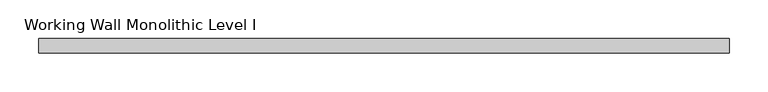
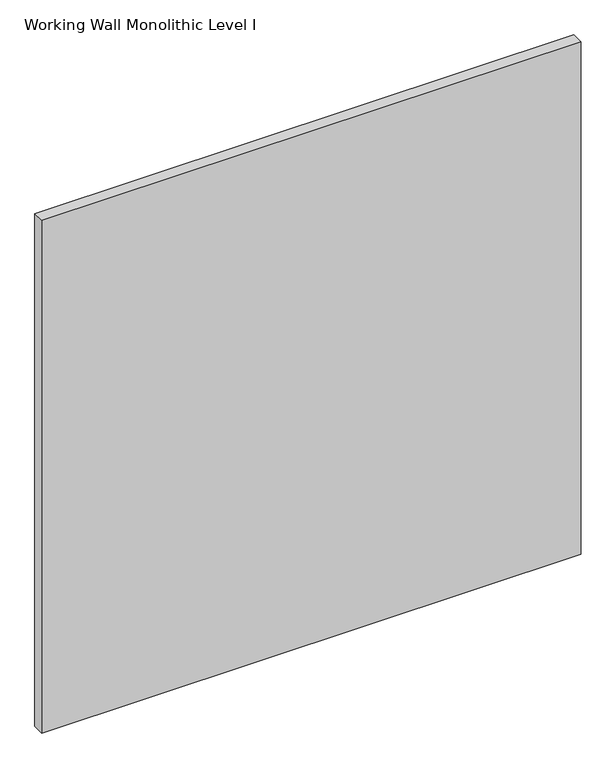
"""IFC4 building model written with IfcOpenShell, lengths in millimetres: proxy geometry, Panel-Fascia-Teknion-Altos-Standard : Working Wall Monolithic Level I."""

from ifc_helpers import new_model, si_unit, frame, origin, place, context, project, spatial, polyline, outline, extrude, source, transform, mapped, element, save


def working_wall_monolithic_level_i_759ace73(model_context):
    return source(origin(), model_context, "Body", "SweptSolid", [
        extrude(outline(polyline([(447.0300781, 9.525), (447.0300781, -9.525), (-447.0300781, -9.525), (-447.0300781, 9.525), (447.0300781, 9.525)])), frame((0.0, 0.0, 3.175), z_axis=(0.0, 0.0, 1.0), x_axis=(1.0, 0.0, 0.0)), (0.0, 0.0, 1.0), 898.525),
    ])


if __name__ == "__main__":
    model = new_model("IFC4")
    model_context = context("Model", 3, world=origin())
    ifc_project = project(units=[si_unit("LENGTHUNIT", "METRE", prefix="MILLI")], contexts=[model_context])
    site = spatial("IfcSite", under=ifc_project)
    building = spatial("IfcBuilding", under=site)
    placement = place(None, origin())
    working_wall_monolithic_level_i_shape = working_wall_monolithic_level_i_759ace73(model_context)
    element("IfcBuildingElementProxy", 1, Name="Panel-Fascia-Teknion-Altos-Standard : Working Wall Monolithic Level I", ObjectType="Panel-Fascia-Teknion-Altos-Standard : Working Wall Monolithic Level I", at=placement, inside=building, context=model_context, shape_type="MappedRepresentation", body=[
        mapped(working_wall_monolithic_level_i_shape, transform((0.0, 0.0, 0.0), x_axis=(1.0, 0.0, 0.0), y_axis=(0.0, 1.0, 0.0), z_axis=(0.0, 0.0, 1.0))),
    ])
    save(model, "model.ifc")
